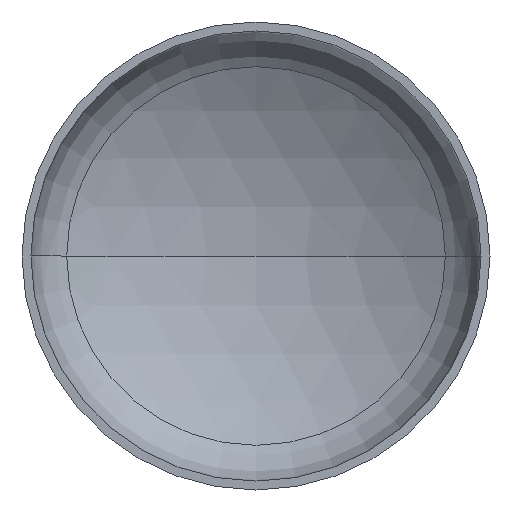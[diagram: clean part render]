
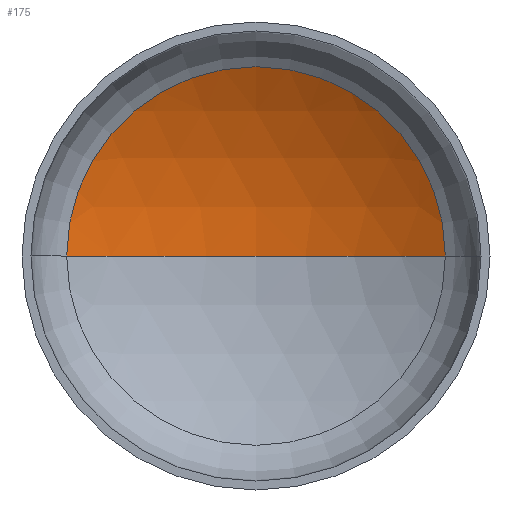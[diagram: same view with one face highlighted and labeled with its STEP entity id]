
A CAD part, front view. The second image highlights one B-rep face of the part: STEP entity #175.
In plain terms, the highlighted spherical face has radius 880 mm.
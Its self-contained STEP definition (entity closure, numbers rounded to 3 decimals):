
#2 = VERTEX_POINT ( 'NONE', #283 ) ;
#11 = AXIS2_PLACEMENT_3D ( 'NONE', #89, #143, #157 ) ;
#12 = CIRCLE ( 'NONE', #13, 880. ) ;
#13 = AXIS2_PLACEMENT_3D ( 'NONE', #336, #294, #334 ) ;
#15 = DIRECTION ( 'NONE',  ( 0., -1., 0. ) ) ;
#18 = CARTESIAN_POINT ( 'NONE',  ( 0., 216.667, 0. ) ) ;
#21 = ORIENTED_EDGE ( 'NONE', *, *, #138, .T. ) ;
#25 = DIRECTION ( 'NONE',  ( 0., 0., -1. ) ) ;
#26 = EDGE_LOOP ( 'NONE', ( #35, #64, #21 ) ) ;
#35 = ORIENTED_EDGE ( 'NONE', *, *, #367, .F. ) ;
#49 = AXIS2_PLACEMENT_3D ( 'NONE', #233, #25, #249 ) ;
#57 = AXIS2_PLACEMENT_3D ( 'NONE', #18, #15, #88 ) ;
#64 = ORIENTED_EDGE ( 'NONE', *, *, #363, .T. ) ;
#77 = VERTEX_POINT ( 'NONE', #290 ) ;
#88 = DIRECTION ( 'NONE',  ( 1., 0., 0. ) ) ;
#89 = CARTESIAN_POINT ( 'NONE',  ( 0., -542.551, 0. ) ) ;
#136 = VERTEX_POINT ( 'NONE', #221 ) ;
#138 = EDGE_CURVE ( 'NONE', #2, #77, #152, .T. ) ;
#143 = DIRECTION ( 'NONE',  ( 0., 0., -1. ) ) ;
#152 = CIRCLE ( 'NONE', #57, 444.958 ) ;
#157 = DIRECTION ( 'NONE',  ( -1., 0., 0. ) ) ;
#175 = ADVANCED_FACE ( 'NONE', ( #296 ), #242, .F. ) ;
#201 = CIRCLE ( 'NONE', #11, 880. ) ;
#221 = CARTESIAN_POINT ( 'NONE',  ( 0., 337.449, 0. ) ) ;
#233 = CARTESIAN_POINT ( 'NONE',  ( 0., -542.551, 0. ) ) ;
#242 = SPHERICAL_SURFACE ( 'NONE', #49, 880. ) ;
#249 = DIRECTION ( 'NONE',  ( -1., 0., 0. ) ) ;
#283 = CARTESIAN_POINT ( 'NONE',  ( 444.958, 216.667, 0. ) ) ;
#290 = CARTESIAN_POINT ( 'NONE',  ( -444.958, 216.667, 0. ) ) ;
#294 = DIRECTION ( 'NONE',  ( 0., 0., 1. ) ) ;
#296 = FACE_OUTER_BOUND ( 'NONE', #26, .T. ) ;
#334 = DIRECTION ( 'NONE',  ( 1., 0., 0. ) ) ;
#336 = CARTESIAN_POINT ( 'NONE',  ( 0., -542.551, 0. ) ) ;
#363 = EDGE_CURVE ( 'NONE', #136, #2, #201, .T. ) ;
#367 = EDGE_CURVE ( 'NONE', #136, #77, #12, .T. ) ;
